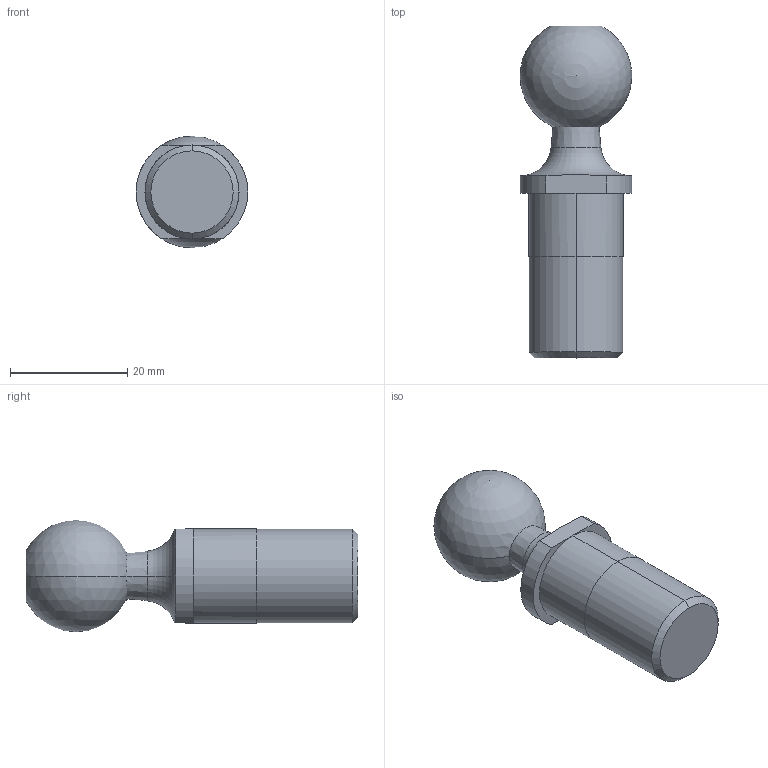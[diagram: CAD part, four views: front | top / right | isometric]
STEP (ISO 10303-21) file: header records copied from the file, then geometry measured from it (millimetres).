
FILE_DESCRIPTION (( 'STEP AP203' ), '1' );
FILE_NAME ('65550.W0016.step', '2014-02-03T10:41:44', ( 'User' ), ( '' ), 'SwSTEP 2.0', 'SolidWorks 2009', '' );
FILE_SCHEMA (( 'CONFIG_CONTROL_DESIGN' ));
Length unit declared in the file: millimetre
Products named in the file (1): 65550.W0016
Bounding box: 19 x 56.5 x 19 mm (x, y, z)
Volume: 10595.2 mm3; surface area: 3275.4 mm2
Topology: 1 solids, 1 shells, 21 faces, 53 edges, 33 vertices
Faces by surface type: plane 7, cylinder 6, cone 4, sphere 2, torus 2
Entity records: 699 total; most frequent: CARTESIAN_POINT 134, DIRECTION 112, ORIENTED_EDGE 96, EDGE_CURVE 48, AXIS2_PLACEMENT_3D 48, VERTEX_POINT 30, CIRCLE 26, EDGE_LOOP 22
